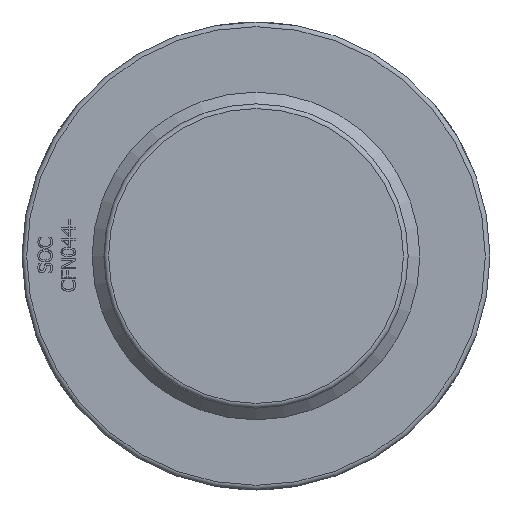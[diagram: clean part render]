
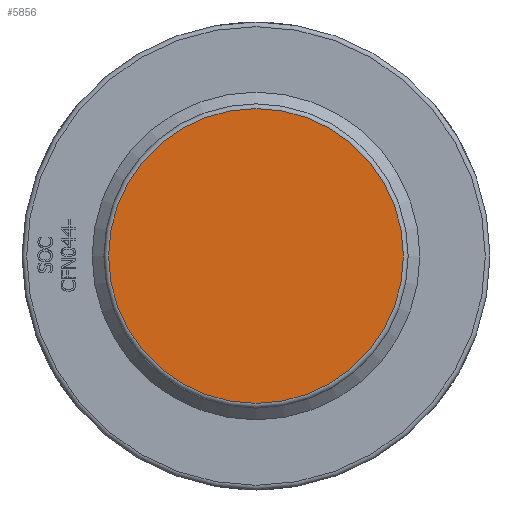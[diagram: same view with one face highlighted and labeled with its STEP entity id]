
A CAD part, front view. The second image highlights one B-rep face of the part: STEP entity #5856.
In plain terms, the highlighted planar face has unit normal (0, -1, 0) as drawn and (0, 1, 0) by its records, which use the part's own axes.
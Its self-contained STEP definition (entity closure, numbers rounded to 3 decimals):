
#51=CIRCLE('',#6167,63.);
#733=FACE_OUTER_BOUND('',#1080,.T.);
#1080=EDGE_LOOP('',(#4646));
#2645=VERTEX_POINT('',#9061);
#3370=EDGE_CURVE('',#2645,#2645,#51,.T.);
#4646=ORIENTED_EDGE('',*,*,#3370,.F.);
#5620=PLANE('',#6169);
#5856=ADVANCED_FACE('',(#733),#5620,.T.);
#6167=AXIS2_PLACEMENT_3D('',#9062,#6728,#6729);
#6169=AXIS2_PLACEMENT_3D('',#9065,#6732,#6733);
#6728=DIRECTION('center_axis',(0.,-1.,0.));
#6729=DIRECTION('ref_axis',(-1.,0.,0.));
#6732=DIRECTION('center_axis',(0.,1.,0.));
#6733=DIRECTION('ref_axis',(0.,0.,1.));
#9061=CARTESIAN_POINT('',(63.,115.5,0.));
#9062=CARTESIAN_POINT('Origin',(0.,115.5,0.));
#9065=CARTESIAN_POINT('Origin',(65.,115.5,0.));
